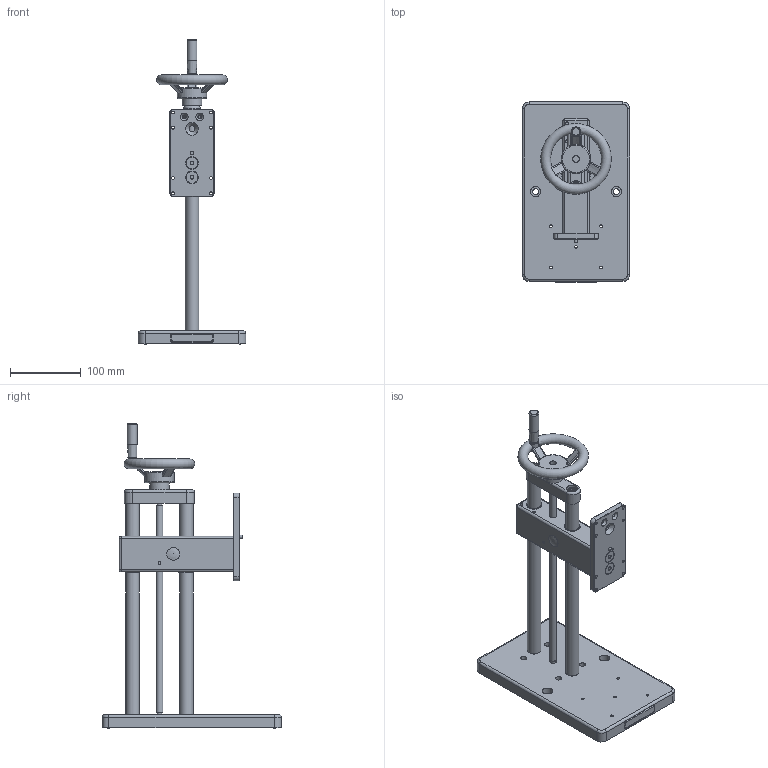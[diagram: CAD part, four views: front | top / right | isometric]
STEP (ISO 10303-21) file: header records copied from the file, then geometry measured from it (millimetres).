
FILE_DESCRIPTION((''),'2;1');
FILE_NAME('F:\CAD files\Itr\3D MARKETING MODELS\MANUAL TEST STANDS\ES20\ES20.stp','2017-06-21T14:43:24',('mlampen'),(''),'Autodesk Inventor 2010','Autodesk Inventor 2010','');
FILE_SCHEMA(('AUTOMOTIVE_DESIGN { 1 0 10303 214 1 1 1 1 }'));
Length unit declared in the file: inch
Products named in the file (3): Assembly1; Part2; Part4
Assembly tree (2 placements, depth 2):
  Assembly1
    Part2
    Part4
Bounding box: 151.89 x 254.83 x 431.48 mm (x, y, z)
Volume: 1322246.6 mm3; surface area: 242315.3 mm2
Topology: 4 solids, 4 shells, 402 faces, 897 edges, 546 vertices
Faces by surface type: plane 149, cylinder 120, cone 91, bspline 18, torus 16, sphere 8
Full cylindrical faces by diameter (mm): 3.81 x8, 4.039 x8, 4.763 x1, 5.131 x2, 6.35 x3, 6.978 x1, 8.382 x7, 8.636 x4, 9 x1, 9.525 x3, 10.16 x5, 11.176 x1, 11.906 x4, 12.7 x1, 14.007 x1, 14.275 x2, 15.875 x2, 16.256 x6, 16.662 x2, 18.161 x2, 19.05 x3, 19.063 x2, 22.225 x2, 22.238 x2, 27.781 x1, 41.672 x1
Entity records: 11128 total; most frequent: CARTESIAN_POINT 2860, DIRECTION 1746, ORIENTED_EDGE 1474, AXIS2_PLACEMENT_3D 755, EDGE_CURVE 737, EDGE_LOOP 632, VERTEX_POINT 509, FACE_OUTER_BOUND 402
